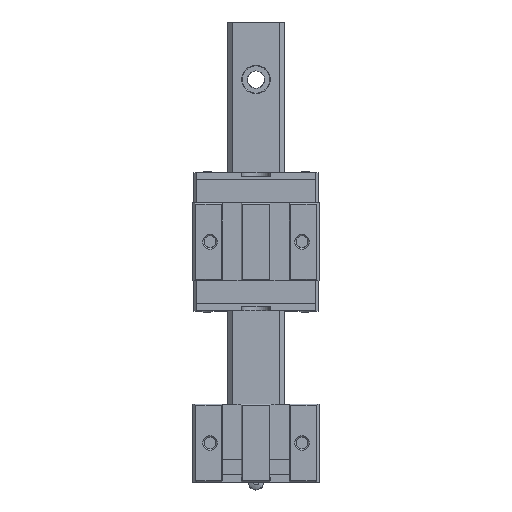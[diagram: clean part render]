
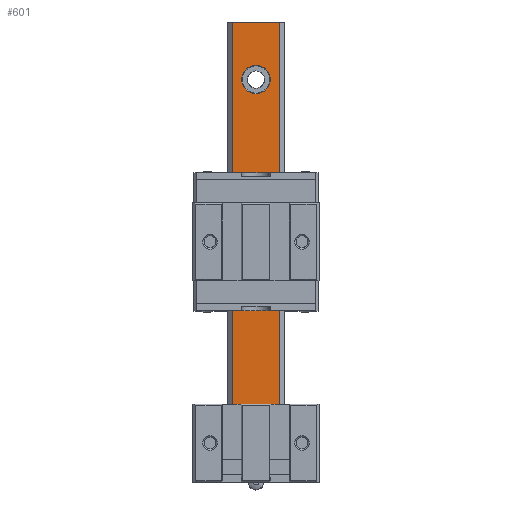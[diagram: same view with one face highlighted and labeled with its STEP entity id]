
A CAD part, top view. The second image highlights one B-rep face of the part: STEP entity #601.
In plain terms, the highlighted planar face has unit normal (0, 0, 1).
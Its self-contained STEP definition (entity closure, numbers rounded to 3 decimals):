
#601 = ADVANCED_FACE( '', ( #1119, #1120, #1121, #1122 ), #1123, .F. );
#1119 = FACE_BOUND( '', #1610, .T. );
#1120 = FACE_BOUND( '', #1611, .T. );
#1121 = FACE_BOUND( '', #1612, .T. );
#1122 = FACE_OUTER_BOUND( '', #1613, .T. );
#1123 = PLANE( '', #1614 );
#1610 = EDGE_LOOP( '', ( #2395 ) );
#1611 = EDGE_LOOP( '', ( #2396 ) );
#1612 = EDGE_LOOP( '', ( #2397 ) );
#1613 = EDGE_LOOP( '', ( #2398, #2399, #2400, #2401 ) );
#1614 = AXIS2_PLACEMENT_3D( '', #2402, #2403, #2404 );
#2395 = ORIENTED_EDGE( '', *, *, #3730, .T. );
#2396 = ORIENTED_EDGE( '', *, *, #3731, .T. );
#2397 = ORIENTED_EDGE( '', *, *, #3627, .T. );
#2398 = ORIENTED_EDGE( '', *, *, #3699, .T. );
#2399 = ORIENTED_EDGE( '', *, *, #3729, .F. );
#2400 = ORIENTED_EDGE( '', *, *, #3673, .F. );
#2401 = ORIENTED_EDGE( '', *, *, #3732, .T. );
#2402 = CARTESIAN_POINT( '', ( 8.25, 160., 8.25 ) );
#2403 = DIRECTION( '', ( 0., 0., -1. ) );
#2404 = DIRECTION( '', ( -1., 0., 0. ) );
#3627 = EDGE_CURVE( '', #4134, #4134, #4135, .T. );
#3673 = EDGE_CURVE( '', #4218, #4220, #4221, .T. );
#3699 = EDGE_CURVE( '', #4270, #4268, #4271, .T. );
#3729 = EDGE_CURVE( '', #4220, #4268, #4309, .T. );
#3730 = EDGE_CURVE( '', #4310, #4310, #4311, .T. );
#3731 = EDGE_CURVE( '', #4312, #4312, #4313, .T. );
#3732 = EDGE_CURVE( '', #4218, #4270, #4314, .T. );
#4134 = VERTEX_POINT( '', #4782 );
#4135 = CIRCLE( '', #4783, 4.95 );
#4218 = VERTEX_POINT( '', #4910 );
#4220 = VERTEX_POINT( '', #4913 );
#4221 = LINE( '', #4914, #4915 );
#4268 = VERTEX_POINT( '', #4981 );
#4270 = VERTEX_POINT( '', #4984 );
#4271 = LINE( '', #4985, #4986 );
#4309 = LINE( '', #5052, #5053 );
#4310 = VERTEX_POINT( '', #5054 );
#4311 = CIRCLE( '', #5055, 4.95 );
#4312 = VERTEX_POINT( '', #5056 );
#4313 = CIRCLE( '', #5057, 4.95 );
#4314 = LINE( '', #5058, #5059 );
#4782 = CARTESIAN_POINT( '', ( -4.95, 20., 8.25 ) );
#4783 = AXIS2_PLACEMENT_3D( '', #5737, #5738, #5739 );
#4910 = CARTESIAN_POINT( '', ( -8.25, 160., 8.25 ) );
#4913 = CARTESIAN_POINT( '', ( 8.25, 160., 8.25 ) );
#4914 = CARTESIAN_POINT( '', ( 8.25, 160., 8.25 ) );
#4915 = VECTOR( '', #5809, 1000. );
#4981 = CARTESIAN_POINT( '', ( 8.25, 0., 8.25 ) );
#4984 = CARTESIAN_POINT( '', ( -8.25, 0., 8.25 ) );
#4985 = CARTESIAN_POINT( '', ( 8.25, 0., 8.25 ) );
#4986 = VECTOR( '', #5845, 1000. );
#5052 = CARTESIAN_POINT( '', ( 8.25, 160., 8.25 ) );
#5053 = VECTOR( '', #5877, 1000. );
#5054 = CARTESIAN_POINT( '', ( -4.95, 140., 8.25 ) );
#5055 = AXIS2_PLACEMENT_3D( '', #5878, #5879, #5880 );
#5056 = CARTESIAN_POINT( '', ( -4.95, 80., 8.25 ) );
#5057 = AXIS2_PLACEMENT_3D( '', #5881, #5882, #5883 );
#5058 = CARTESIAN_POINT( '', ( -8.25, 160., 8.25 ) );
#5059 = VECTOR( '', #5884, 1000. );
#5737 = CARTESIAN_POINT( '', ( 0., 20., 8.25 ) );
#5738 = DIRECTION( '', ( 0., 0., -1. ) );
#5739 = DIRECTION( '', ( -1., 0., 0. ) );
#5809 = DIRECTION( '', ( 1., 0., 0. ) );
#5845 = DIRECTION( '', ( 1., 0., 0. ) );
#5877 = DIRECTION( '', ( 0., -1., 0. ) );
#5878 = CARTESIAN_POINT( '', ( 0., 140., 8.25 ) );
#5879 = DIRECTION( '', ( 0., 0., -1. ) );
#5880 = DIRECTION( '', ( -1., 0., 0. ) );
#5881 = CARTESIAN_POINT( '', ( 0., 80., 8.25 ) );
#5882 = DIRECTION( '', ( 0., 0., -1. ) );
#5883 = DIRECTION( '', ( -1., 0., 0. ) );
#5884 = DIRECTION( '', ( 0., -1., 0. ) );
